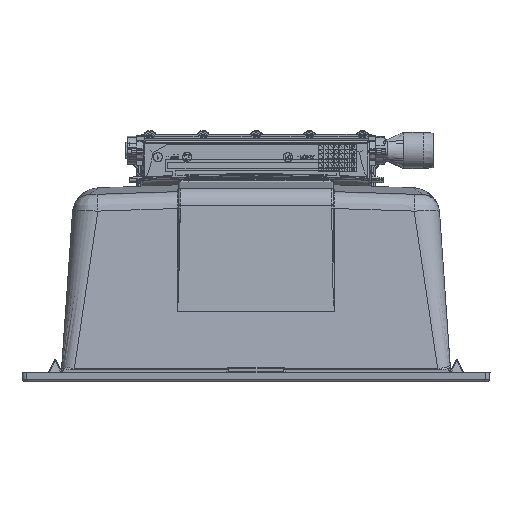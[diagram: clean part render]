
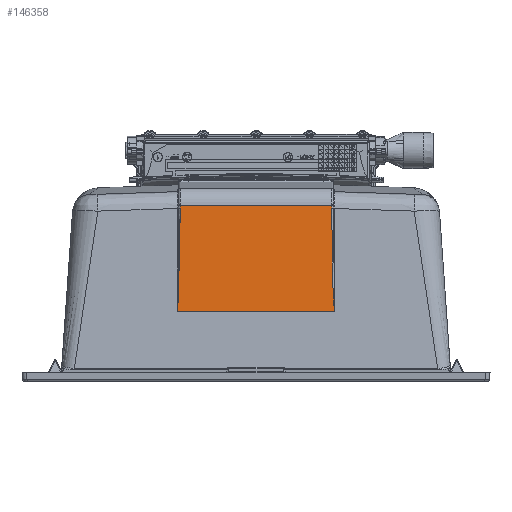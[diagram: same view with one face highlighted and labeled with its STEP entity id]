
A CAD part, left-side view. The second image highlights one B-rep face of the part: STEP entity #146358.
In plain terms, the highlighted planar face has unit normal (-0.999, 0, 0.043).
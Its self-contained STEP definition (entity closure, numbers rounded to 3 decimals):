
#2089 = CARTESIAN_POINT ( 'NONE',  ( -771.15, -66.145, 81.546 ) ) ;
#3993 = ORIENTED_EDGE ( 'NONE', *, *, #204319, .T. ) ;
#5532 = ORIENTED_EDGE ( 'NONE', *, *, #5594, .T. ) ;
#5594 = EDGE_CURVE ( 'NONE', #103628, #24573, #170525, .T. ) ;
#5897 = ORIENTED_EDGE ( 'NONE', *, *, #131010, .T. ) ;
#6410 = ORIENTED_EDGE ( 'NONE', *, *, #44278, .T. ) ;
#14465 = CARTESIAN_POINT ( 'NONE',  ( -774.153, -66.385, 11.236 ) ) ;
#21408 = VERTEX_POINT ( 'NONE', #242021 ) ;
#24573 = VERTEX_POINT ( 'NONE', #2089 ) ;
#26007 = CARTESIAN_POINT ( 'NONE',  ( -776.14, -190.144, -35.303 ) ) ;
#37890 = CARTESIAN_POINT ( 'NONE',  ( -771.286, -66.168, 78.364 ) ) ;
#38293 = CARTESIAN_POINT ( 'NONE',  ( -771.24, -66.165, 79.425 ) ) ;
#44278 = EDGE_CURVE ( 'NONE', #93469, #240351, #67773, .T. ) ;
#57247 = DIRECTION ( 'NONE',  ( 0., -1., 0. ) ) ;
#61082 = ORIENTED_EDGE ( 'NONE', *, *, #212363, .F. ) ;
#67773 = LINE ( 'NONE', #26007, #93198 ) ;
#83174 = ORIENTED_EDGE ( 'NONE', *, *, #182972, .T. ) ;
#93198 = VECTOR ( 'NONE', #204463, 1000. ) ;
#93469 = VERTEX_POINT ( 'NONE', #140216 ) ;
#93988 = CARTESIAN_POINT ( 'NONE',  ( -771.24, 100.877, 79.425 ) ) ;
#96496 = CARTESIAN_POINT ( 'NONE',  ( -771.15, 100.858, 81.546 ) ) ;
#98255 = CARTESIAN_POINT ( 'NONE',  ( -771.195, -66.15, 80.485 ) ) ;
#103628 = VERTEX_POINT ( 'NONE', #232321 ) ;
#120242 = VERTEX_POINT ( 'NONE', #96496 ) ;
#131010 = EDGE_CURVE ( 'NONE', #240351, #103628, #204789, .T. ) ;
#133320 = PLANE ( 'NONE',  #244951 ) ;
#140216 = CARTESIAN_POINT ( 'NONE',  ( -776.14, 104.294, -35.303 ) ) ;
#146358 = ADVANCED_FACE ( 'NONE', ( #168533 ), #133320, .T. ) ;
#151646 = EDGE_LOOP ( 'NONE', ( #61082, #83174, #3993, #6410, #5897, #5532 ) ) ;
#160350 = VECTOR ( 'NONE', #57247, 1000. ) ;
#166889 = B_SPLINE_CURVE_WITH_KNOTS ( 'NONE', 3,
 ( #250232, #190374, #93988, #248953 ),
 .UNSPECIFIED., .F., .F.,
 ( 4, 4 ),
 ( 0., 0.003 ),
 .UNSPECIFIED. ) ;
#168533 = FACE_OUTER_BOUND ( 'NONE', #151646, .T. ) ;
#170525 = B_SPLINE_CURVE_WITH_KNOTS ( 'NONE', 3,
 ( #176353, #38293, #98255, #238782 ),
 .UNSPECIFIED., .F., .F.,
 ( 4, 4 ),
 ( 0., 0.003 ),
 .UNSPECIFIED. ) ;
#175939 = CARTESIAN_POINT ( 'NONE',  ( -776.14, -69.581, -35.303 ) ) ;
#176353 = CARTESIAN_POINT ( 'NONE',  ( -771.286, -66.168, 78.364 ) ) ;
#182972 = EDGE_CURVE ( 'NONE', #120242, #21408, #166889, .T. ) ;
#186415 = CARTESIAN_POINT ( 'NONE',  ( -776.14, 104.294, -35.303 ) ) ;
#190374 = CARTESIAN_POINT ( 'NONE',  ( -771.195, 100.863, 80.485 ) ) ;
#197800 = CARTESIAN_POINT ( 'NONE',  ( -771.15, 94.356, 81.546 ) ) ;
#204319 = EDGE_CURVE ( 'NONE', #21408, #93469, #248886, .T. ) ;
#204463 = DIRECTION ( 'NONE',  ( 0., -1., 0. ) ) ;
#204789 =( BOUNDED_CURVE ( )  B_SPLINE_CURVE ( 3, ( #175939, #216293, #14465, #37890 ),
 .UNSPECIFIED., .F., .F. ) 
 B_SPLINE_CURVE_WITH_KNOTS ( ( 4, 4 ),
 ( 3.159, 4.594 ),
 .UNSPECIFIED. ) 
 CURVE ( )  GEOMETRIC_REPRESENTATION_ITEM ( )  RATIONAL_B_SPLINE_CURVE ( ( 1., 0.836, 0.836, 1. ) ) 
 REPRESENTATION_ITEM ( '' )  );
#212363 = EDGE_CURVE ( 'NONE', #120242, #24573, #239403, .T. ) ;
#212975 = CARTESIAN_POINT ( 'NONE',  ( -776.089, 102.459, -34.102 ) ) ;
#216293 = CARTESIAN_POINT ( 'NONE',  ( -776.089, -67.746, -34.102 ) ) ;
#229683 = CARTESIAN_POINT ( 'NONE',  ( -771.15, 94.356, 81.546 ) ) ;
#232321 = CARTESIAN_POINT ( 'NONE',  ( -771.286, -66.168, 78.364 ) ) ;
#232502 = CARTESIAN_POINT ( 'NONE',  ( -774.153, 101.097, 11.236 ) ) ;
#234763 = CARTESIAN_POINT ( 'NONE',  ( -776.14, -69.581, -35.303 ) ) ;
#238782 = CARTESIAN_POINT ( 'NONE',  ( -771.15, -66.145, 81.546 ) ) ;
#239403 = LINE ( 'NONE', #197800, #160350 ) ;
#240351 = VERTEX_POINT ( 'NONE', #234763 ) ;
#242021 = CARTESIAN_POINT ( 'NONE',  ( -771.286, 100.881, 78.364 ) ) ;
#244951 = AXIS2_PLACEMENT_3D ( 'NONE', #229683, #249227, #247951 ) ;
#247951 = DIRECTION ( 'NONE',  ( -0.043, 0., -0.999 ) ) ;
#248886 =( BOUNDED_CURVE ( )  B_SPLINE_CURVE ( 3, ( #252038, #232502, #212975, #186415 ),
 .UNSPECIFIED., .F., .F. ) 
 B_SPLINE_CURVE_WITH_KNOTS ( ( 4, 4 ),
 ( 4.831, 6.265 ),
 .UNSPECIFIED. ) 
 CURVE ( )  GEOMETRIC_REPRESENTATION_ITEM ( )  RATIONAL_B_SPLINE_CURVE ( ( 1., 0.836, 0.836, 1. ) ) 
 REPRESENTATION_ITEM ( '' )  );
#248953 = CARTESIAN_POINT ( 'NONE',  ( -771.286, 100.881, 78.364 ) ) ;
#249227 = DIRECTION ( 'NONE',  ( -0.999, 0., 0.043 ) ) ;
#250232 = CARTESIAN_POINT ( 'NONE',  ( -771.15, 100.858, 81.546 ) ) ;
#252038 = CARTESIAN_POINT ( 'NONE',  ( -771.286, 100.881, 78.364 ) ) ;
